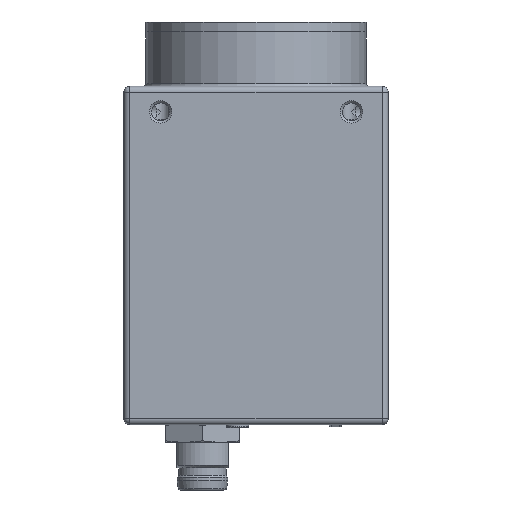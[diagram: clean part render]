
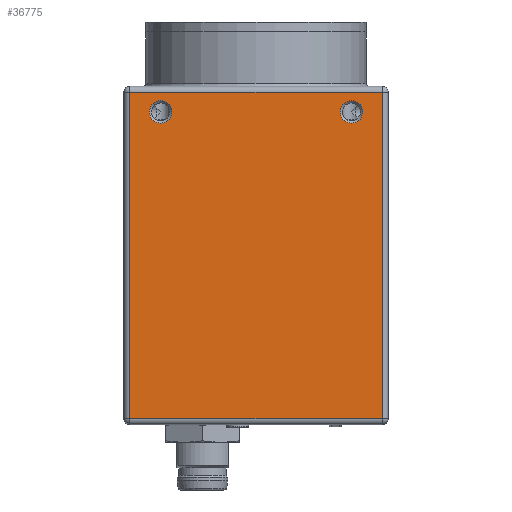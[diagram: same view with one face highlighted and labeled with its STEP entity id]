
A CAD part, left-side view. The second image highlights one B-rep face of the part: STEP entity #36775.
In plain terms, the highlighted planar face has unit normal (-1, 0, 0).
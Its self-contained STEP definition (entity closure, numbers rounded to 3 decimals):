
#853=PLANE('',#51944);
#2247=LINE('',#68198,#5652);
#2248=LINE('',#68201,#5653);
#2249=LINE('',#68203,#5654);
#2250=LINE('',#68205,#5655);
#5652=VECTOR('',#56195,1000.);
#5653=VECTOR('',#56196,1000.);
#5654=VECTOR('',#56197,1000.);
#5655=VECTOR('',#56198,1000.);
#10172=ORIENTED_EDGE('',*,*,#21038,.T.);
#10173=ORIENTED_EDGE('',*,*,#21039,.T.);
#10174=ORIENTED_EDGE('',*,*,#21040,.T.);
#10175=ORIENTED_EDGE('',*,*,#21041,.T.);
#10176=ORIENTED_EDGE('',*,*,#21042,.T.);
#10177=ORIENTED_EDGE('',*,*,#21043,.T.);
#21038=EDGE_CURVE('',#26431,#26431,#29890,.F.);
#21039=EDGE_CURVE('',#26432,#26432,#29891,.F.);
#21040=EDGE_CURVE('',#26433,#26434,#2247,.T.);
#21041=EDGE_CURVE('',#26434,#26435,#2248,.F.);
#21042=EDGE_CURVE('',#26435,#26436,#2249,.T.);
#21043=EDGE_CURVE('',#26436,#26433,#2250,.T.);
#26431=VERTEX_POINT('',#68195);
#26432=VERTEX_POINT('',#68197);
#26433=VERTEX_POINT('',#68199);
#26434=VERTEX_POINT('',#68200);
#26435=VERTEX_POINT('',#68202);
#26436=VERTEX_POINT('',#68204);
#29890=CIRCLE('',#51945,1.53);
#29891=CIRCLE('',#51946,1.53);
#31406=EDGE_LOOP('',(#10172));
#31407=EDGE_LOOP('',(#10173));
#31408=EDGE_LOOP('',(#10174,#10175,#10176,#10177));
#34077=FACE_BOUND('',#31406,.T.);
#34078=FACE_BOUND('',#31407,.T.);
#34079=FACE_BOUND('',#31408,.T.);
#36775=ADVANCED_FACE('',(#34077,#34078,#34079),#853,.T.);
#51944=AXIS2_PLACEMENT_3D('',#68193,#56189,#56190);
#51945=AXIS2_PLACEMENT_3D('',#68194,#56191,#56192);
#51946=AXIS2_PLACEMENT_3D('',#68196,#56193,#56194);
#56189=DIRECTION('',(-1.,0.,0.));
#56190=DIRECTION('',(0.,0.,1.));
#56191=DIRECTION('',(-1.,0.,0.));
#56192=DIRECTION('',(0.,0.,1.));
#56193=DIRECTION('',(-1.,0.,0.));
#56194=DIRECTION('',(0.,0.,1.));
#56195=DIRECTION('',(0.,-1.,0.));
#56196=DIRECTION('',(0.,0.,-1.));
#56197=DIRECTION('',(0.,1.,0.));
#56198=DIRECTION('',(0.,0.,-1.));
#68193=CARTESIAN_POINT('',(-18.,-14.5,12.2));
#68194=CARTESIAN_POINT('',(-18.,-13.,5.9));
#68195=CARTESIAN_POINT('',(-18.,-13.,7.43));
#68196=CARTESIAN_POINT('',(-18.,13.,5.9));
#68197=CARTESIAN_POINT('',(-18.,13.,7.43));
#68198=CARTESIAN_POINT('',(-18.,-14.5,-35.9));
#68199=CARTESIAN_POINT('',(-18.,17.2,-35.9));
#68200=CARTESIAN_POINT('',(-18.,-17.2,-35.9));
#68201=CARTESIAN_POINT('',(-18.,-17.2,12.2));
#68202=CARTESIAN_POINT('',(-18.,-17.2,8.6));
#68203=CARTESIAN_POINT('',(-18.,14.5,8.6));
#68204=CARTESIAN_POINT('',(-18.,17.2,8.6));
#68205=CARTESIAN_POINT('',(-18.,17.2,12.2));
